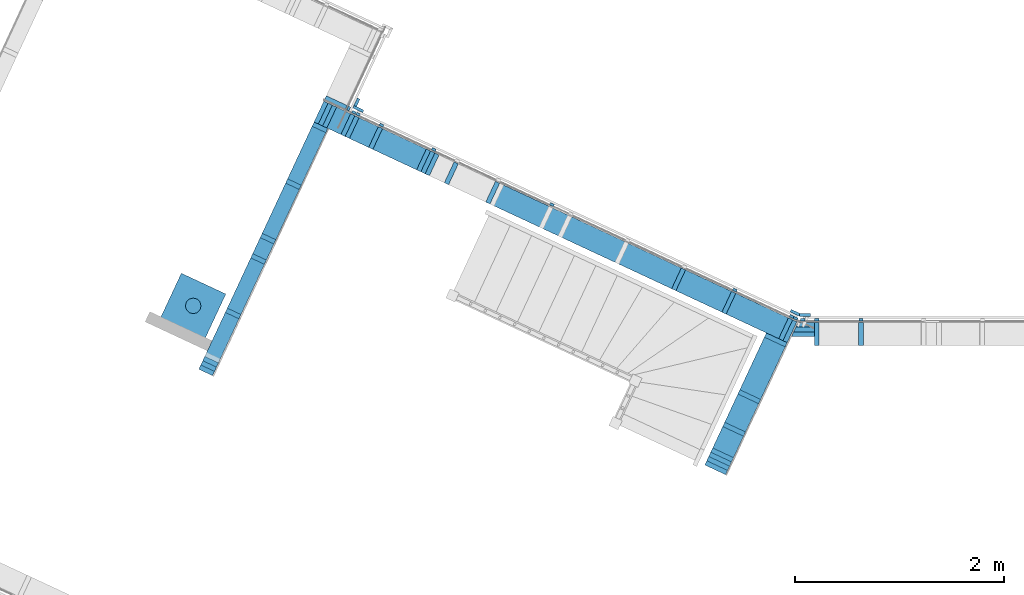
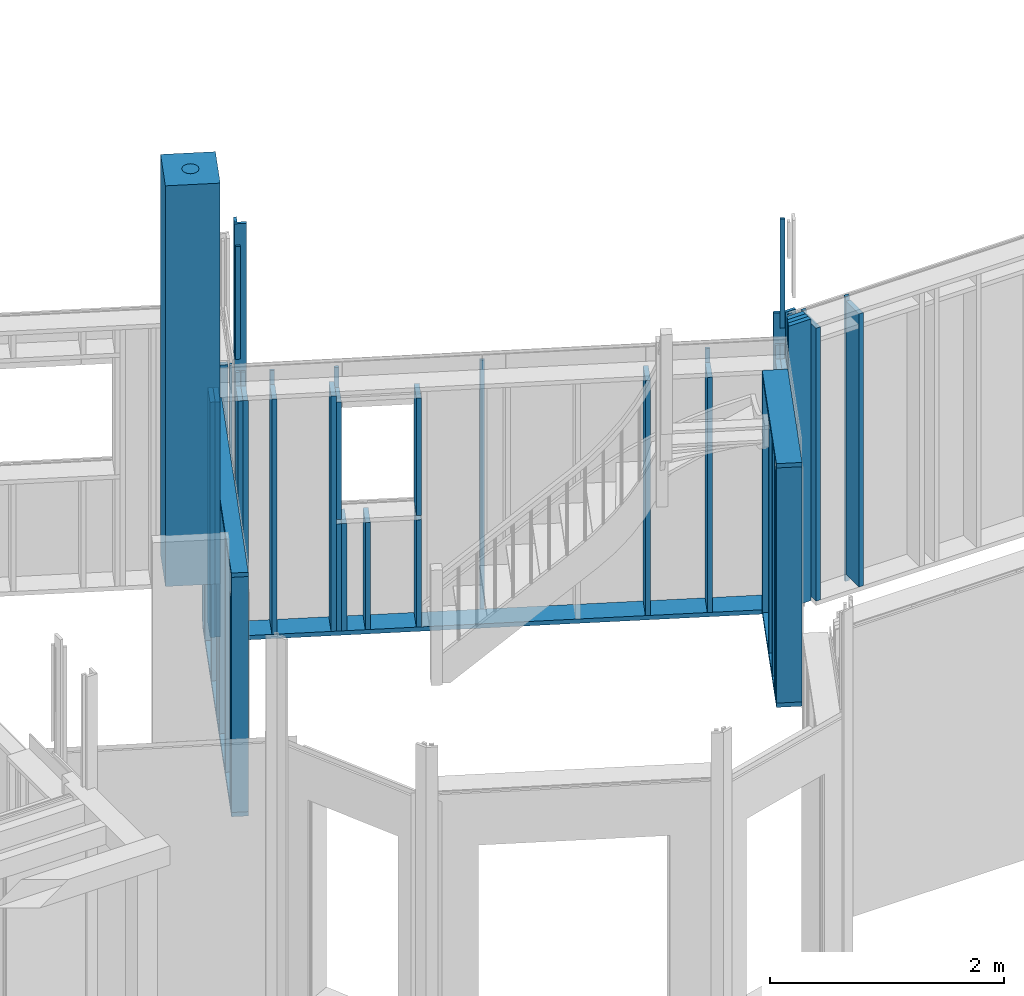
# One storey, part 11 of 34: 63 members.
"""IFC2X3 building model written with IfcOpenShell, lengths in metres."""

from ifc_helpers import new_model, si_unit, direction, frame, origin_with_axes, place, context, subcontext, project, spatial, faceted_brep, material, element, save


model = new_model("IFC2X3")

# Units and contexts
model_context = context("Model", 3, precision=1e-06, world=origin_with_axes(), true_north=direction((0.0, 1.0, 0.0)))
body_context = subcontext(model_context, "Body", "Model", "MODEL_VIEW")
ifc_project = project(units=[si_unit("LENGTHUNIT", "METRE"), si_unit("AREAUNIT", "SQUARE_METRE"), si_unit("VOLUMEUNIT", "CUBIC_METRE"), si_unit("PLANEANGLEUNIT", "RADIAN")], contexts=[model_context])

# Site, building, storey
site_placement = place(None, origin_with_axes())
site = spatial("IfcSite", under=ifc_project, at=site_placement, CompositionType="ELEMENT")
building_placement = place(site_placement, origin_with_axes())
building = spatial("IfcBuilding", under=site, at=building_placement, Name="Building 1", CompositionType="ELEMENT")
storey_placement = place(building_placement, origin_with_axes())
storey = spatial("IfcBuildingStorey", under=building, at=storey_placement, Name="Rez de chaussée", CompositionType="ELEMENT", Elevation=0.0)

# Members
ifc_material_1 = material(Name="Epicéa C24")
member_1_placement = place(storey_placement, frame((15.3161147, 3.9052799, 2.98), z_axis=(-1.0, 0.0, 0.0), x_axis=(0.0, 0.0, -1.0)))
element("IfcMember", 1, at=member_1_placement, inside=storey, material=ifc_material_1, Name="Montant", context=body_context, shape_type="Brep", body=[
    faceted_brep([(2.935, -0.0225, 0.0680323), (0.0, -0.0225, 0.0680323), (0.0, -0.0225, -0.0890162), (2.935, -0.0225, -0.0890162), (0.0, 0.0225, -0.0890162), (2.935, 0.0225, -0.0890162), (0.0, 0.0225, 0.0890162), (2.935, 0.0225, 0.0890162)], [[[0, 1, 2, 3]], [[3, 2, 4, 5]], [[6, 7, 5, 4]], [[7, 0, 3, 5]], [[6, 1, 0, 7]], [[1, 6, 4, 2]]]),
])
member_2_placement = place(storey_placement, frame((9.5794139, 3.4492099, 0.0675), z_axis=(-0.9063078, 0.4226183, 0.0), x_axis=(0.4226183, 0.9063078, 0.0)))
element("IfcMember", 2, at=member_2_placement, inside=storey, material=ifc_material_1, Name="Lisse basse", context=body_context, shape_type="Brep", body=[
    faceted_brep([(0.0, 0.0225, -0.0725), (2.6106551, 0.0225, -0.0725), (2.6106551, -0.0225, -0.0725), (0.0, -0.0225, -0.0725), (2.6106551, 0.0225, 0.0725), (2.6106551, -0.0225, 0.0725), (0.0, -0.0225, 0.0725), (0.0, 0.0225, 0.0725)], [[[0, 1, 2, 3]], [[4, 5, 2, 1]], [[5, 6, 3, 2]], [[7, 4, 1, 0]], [[6, 5, 4, 7]], [[6, 7, 0, 3]]]),
])
member_3_placement = place(storey_placement, frame((10.9476754, 5.9752864, 2.745), z_axis=(-0.9063078, 0.4226183, 0.0), x_axis=(0.0, 0.0, -1.0)))
element("IfcMember", 3, at=member_3_placement, inside=storey, material=ifc_material_1, Name="latte 27/40", context=body_context, shape_type="Brep", body=[
    faceted_brep([(2.74, -0.02, -0.012), (2.74, 0.02, -0.012), (2.74, 0.02, 0.012), (2.74, -0.02, 0.012), (0.0, 0.02, 0.012), (0.0, -0.02, 0.012), (0.0, 0.02, -0.012), (0.0, -0.02, -0.012)], [[[0, 1, 2, 3]], [[3, 2, 4, 5]], [[2, 1, 6, 4]], [[1, 0, 7, 6]], [[6, 7, 5, 4]], [[0, 3, 5, 7]]]),
])
member_4_placement = place(storey_placement, frame((12.3264059, 5.1701773, 1.207), z_axis=(0.4226183, 0.9063078, 0.0), x_axis=(0.0, 0.0, -1.0)))
element("IfcMember", 4, at=member_4_placement, inside=storey, material=ifc_material_1, Name="Montant", context=body_context, shape_type="Brep", body=[
    faceted_brep([(1.117, -0.0225, -0.11), (1.117, 0.0225, -0.11), (1.117, 0.0225, 0.11), (1.117, -0.0225, 0.11), (0.0, 0.0225, -0.11), (0.0, 0.0225, 0.11), (0.0, -0.0225, -0.11), (0.0, -0.0225, 0.11)], [[[0, 1, 2, 3]], [[2, 1, 4, 5]], [[1, 0, 6, 4]], [[0, 3, 7, 6]], [[3, 2, 5, 7]], [[7, 5, 4, 6]]]),
])
for number, where, z_axis, x_axis, name in (
    (5, (10.7246809, 5.9170739, 2.54), (0.4226183, 0.9063078, 0.0), (0.0, 0.0, -1.0), "Montant"),
    (6, (11.2054772, 5.6928749, 2.54), (0.4226183, 0.9063078, 0.0), (0.0, 0.0, -1.0), "Montant"),
    (7, (14.1054863, 4.3405785, 2.54), (0.4226183, 0.9063078, 0.0), (0.0, 0.0, -1.0), "Montant"),
):
    element("IfcMember", number, at=place(storey_placement, frame(where, z_axis=z_axis, x_axis=x_axis)), inside=storey, material=ifc_material_1, Name=name, context=body_context, shape_type="Brep", body=[
        faceted_brep([(0.0, 0.0225, 0.11), (0.0, -0.0225, 0.11), (2.45, -0.0225, 0.11), (2.45, 0.0225, 0.11), (2.45, -0.0225, -0.11), (2.45, 0.0225, -0.11), (0.0, -0.0225, -0.11), (0.0, 0.0225, -0.11)], [[[0, 1, 2, 3]], [[4, 5, 3, 2]], [[4, 2, 1, 6]], [[5, 4, 6, 7]], [[3, 5, 7, 0]], [[1, 0, 7, 6]]]),
    ])
ifc_material_2 = material(Name="NH II")
member_5_placement = place(storey_placement, frame((11.0397451, 5.9704201, -0.08), z_axis=(0.9063078, -0.4226183, 0.0), x_axis=(0.0, 0.0, 1.0)))
element("IfcMember", 8, at=member_5_placement, inside=storey, material=ifc_material_2, Name="Couvre joint", context=body_context, shape_type="Brep", body=[
    faceted_brep([(4.2710549, 0.0135, -0.0525), (4.2710549, 0.0135, 0.0525), (4.2710549, -0.0135, 0.0525), (4.2710549, -0.0135, -0.0525), (0.0, 0.0135, 0.0525), (0.0, 0.0135, -0.0525), (0.0, -0.0135, -0.0525), (0.0, -0.0135, 0.0525)], [[[0, 1, 2, 3]], [[4, 5, 6, 7]], [[3, 6, 5, 0]], [[2, 7, 6, 3]], [[1, 4, 7, 2]], [[0, 5, 4, 1]]]),
])
member_6_placement = place(storey_placement, frame((15.3056228, 3.8602799, 2.98), z_axis=(-1.0, 0.0, 0.0), x_axis=(0.0, 0.0, -1.0)))
element("IfcMember", 9, at=member_6_placement, inside=storey, material=ifc_material_1, Name="Montant", context=body_context, shape_type="Brep", body=[
    faceted_brep([(2.935, -0.0225, 0.0785242), (0.0, -0.0225, 0.0785242), (0.0, -0.0225, -0.0995081), (2.935, -0.0225, -0.0995081), (0.0, 0.0225, -0.0995081), (2.935, 0.0225, -0.0995081), (0.0, 0.0225, 0.0995081), (2.935, 0.0225, 0.0995081)], [[[0, 1, 2, 3]], [[3, 2, 4, 5]], [[6, 7, 5, 4]], [[7, 0, 3, 5]], [[6, 1, 0, 7]], [[1, 6, 4, 2]]]),
])
for number, where, z_axis, x_axis, name in (
    (10, (12.8938847, 5.0545136, 2.675), (0.4226183, 0.9063078, 0.0), (0.0, 0.0, -1.0), "latte 27/40"),
    (11, (11.2625307, 5.8152265, 2.675), (0.4226183, 0.9063078, 0.0), (0.0, 0.0, -1.0), "latte 27/40"),
):
    element("IfcMember", number, at=place(storey_placement, frame(where, z_axis=z_axis, x_axis=x_axis)), inside=storey, material=ifc_material_1, Name=name, context=body_context, shape_type="Brep", body=[
        faceted_brep([(0.0, -0.02, 0.012), (0.0, -0.02, -0.012), (2.67, -0.02, -0.012), (2.67, -0.02, 0.012), (0.0, 0.02, -0.012), (2.67, 0.02, -0.012), (0.0, 0.02, 0.012), (2.67, 0.02, 0.012)], [[[0, 1, 2, 3]], [[1, 4, 5, 2]], [[4, 6, 7, 5]], [[6, 0, 3, 7]], [[0, 6, 4, 1]], [[7, 3, 2, 5]]]),
    ])
member_7_placement = place(storey_placement, frame((11.9303476, 5.3548623, 1.207), z_axis=(0.4226183, 0.9063078, 0.0), x_axis=(0.0, 0.0, -1.0)))
element("IfcMember", 12, at=member_7_placement, inside=storey, material=ifc_material_1, Name="Montant", context=body_context, shape_type="Brep", body=[
    faceted_brep([(1.117, -0.0225, -0.11), (1.117, 0.0225, -0.11), (1.117, 0.0225, 0.11), (1.117, -0.0225, 0.11), (0.0, 0.0225, -0.11), (0.0, 0.0225, 0.11), (0.0, -0.0225, -0.11), (0.0, -0.0225, 0.11)], [[[0, 1, 2, 3]], [[2, 1, 4, 5]], [[1, 0, 6, 4]], [[0, 3, 7, 6]], [[3, 2, 5, 7]], [[7, 5, 4, 6]]]),
])
member_8_placement = place(storey_placement, frame((14.4841493, 2.5781967, 2.48), z_axis=(0.9063078, -0.4226183, 0.0), x_axis=(0.0, 0.0, -1.0)))
element("IfcMember", 13, at=member_8_placement, inside=storey, material=ifc_material_1, Name="Montant", context=body_context, shape_type="Brep", body=[
    faceted_brep([(2.39, -0.0225, -0.11), (2.39, 0.0225, -0.11), (2.39, 0.0225, 0.11), (2.39, -0.0225, 0.11), (0.0, -0.0225, 0.11), (0.0, -0.0225, -0.11), (0.0, 0.0225, -0.11), (0.0, 0.0225, 0.11)], [[[0, 1, 2, 3]], [[0, 3, 4, 5]], [[1, 0, 5, 6]], [[2, 1, 6, 7]], [[3, 2, 7, 4]], [[4, 7, 6, 5]]]),
])
member_9_placement = place(storey_placement, frame((11.6648012, 5.4786886, 2.54), z_axis=(0.4226183, 0.9063078, 0.0), x_axis=(0.0, 0.0, -1.0)))
element("IfcMember", 14, at=member_9_placement, inside=storey, material=ifc_material_1, Name="Montant", context=body_context, shape_type="Brep", body=[
    faceted_brep([(0.0, 0.0225, 0.11), (0.0, -0.0225, 0.11), (2.45, -0.0225, 0.11), (2.45, 0.0225, 0.11), (2.45, -0.0225, -0.11), (2.45, 0.0225, -0.11), (0.0, -0.0225, -0.11), (0.0, 0.0225, -0.11)], [[[0, 1, 2, 3]], [[4, 5, 3, 2]], [[4, 2, 1, 6]], [[5, 4, 6, 7]], [[3, 5, 7, 0]], [[1, 0, 7, 6]]]),
])
member_10_placement = place(storey_placement, frame((15.4276309, 3.8177799, 2.935), z_axis=(0.0, 1.0, 0.0), x_axis=(0.0, 0.0, -1.0)))
element("IfcMember", 15, at=member_10_placement, inside=storey, material=ifc_material_1, Name="Montant", context=body_context, shape_type="Brep", body=[
    faceted_brep([(2.845, -0.0225, 0.11), (2.845, 0.0225, 0.11), (0.0, 0.0225, 0.11), (0.0, -0.0225, 0.11), (2.845, -0.0225, -0.11), (2.845, 0.0225, -0.11), (0.0, -0.0225, -0.11), (0.0, 0.0225, -0.11)], [[[0, 1, 2, 3]], [[4, 5, 1, 0]], [[4, 0, 3, 6]], [[5, 4, 6, 7]], [[1, 5, 7, 2]], [[3, 2, 7, 6]]]),
])
member_11_placement = place(storey_placement, frame((15.1708511, 3.8437907, 2.54), z_axis=(0.4226183, 0.9063078, 0.0), x_axis=(0.0, 0.0, -1.0)))
element("IfcMember", 16, at=member_11_placement, inside=storey, material=ifc_material_1, Name="Montant", context=body_context, shape_type="Brep", body=[
    faceted_brep([(0.0, 0.0225, 0.11), (0.0, -0.0225, 0.11), (2.45, -0.0225, 0.11), (2.45, 0.0225, 0.11), (2.45, -0.0225, -0.11), (2.45, 0.0225, -0.11), (0.0, -0.0225, -0.11), (0.0, 0.0225, -0.11)], [[[0, 1, 2, 3]], [[4, 5, 3, 2]], [[4, 2, 1, 6]], [[5, 4, 6, 7]], [[3, 5, 7, 0]], [[1, 0, 7, 6]]]),
])
member_12_placement = place(storey_placement, frame((10.6732155, 5.794875, 2.54), z_axis=(0.9063078, -0.4226183, 0.0), x_axis=(0.0, 0.0, -1.0)))
element("IfcMember", 17, at=member_12_placement, inside=storey, material=ifc_material_1, Name="Montant", context=body_context, shape_type="Brep", body=[
    faceted_brep([(2.45, -0.0225, -0.0725), (2.45, 0.0225, -0.0725), (2.45, 0.0225, 0.0725), (2.45, -0.0225, 0.0725), (0.0, -0.0225, 0.0725), (0.0, -0.0225, -0.0725), (0.0, 0.0225, -0.0725), (0.0, 0.0225, 0.0725)], [[[0, 1, 2, 3]], [[0, 3, 4, 5]], [[1, 0, 5, 6]], [[2, 1, 6, 7]], [[3, 2, 7, 4]], [[4, 7, 6, 5]]]),
])
member_13_placement = place(storey_placement, frame((14.7819813, 3.2168993, 2.54), z_axis=(0.9063078, -0.4226183, 0.0), x_axis=(0.0, 0.0, -1.0)))
element("IfcMember", 18, at=member_13_placement, inside=storey, material=ifc_material_1, Name="Montant", context=body_context, shape_type="Brep", body=[
    faceted_brep([(2.45, -0.0225, -0.11), (2.45, -0.0225, 0.11), (0.0, -0.0225, 0.11), (0.0, -0.0225, -0.11), (2.45, 0.0225, -0.11), (0.0, 0.0225, -0.11), (2.45, 0.0225, 0.11), (0.0, 0.0225, 0.11)], [[[0, 1, 2, 3]], [[4, 0, 3, 5]], [[6, 4, 5, 7]], [[0, 4, 6, 1]], [[7, 2, 1, 6]], [[2, 7, 5, 3]]]),
])
member_14_placement = place(storey_placement, frame((15.191243, 3.8342818, 0.0675), z_axis=(-0.4226183, -0.9063078, 0.0), x_axis=(-0.9063078, 0.4226183, 0.0)))
element("IfcMember", 19, at=member_14_placement, inside=storey, material=ifc_material_1, Name="Lisse basse", context=body_context, shape_type="Brep", body=[
    faceted_brep([(0.0, 0.0225, -0.11), (4.995806, 0.0225, -0.11), (4.995806, -0.0225, -0.11), (0.0, -0.0225, -0.11), (4.995806, -0.0225, 0.11), (0.0, -0.0225, 0.11), (4.995806, 0.0225, 0.11), (0.0, 0.0225, 0.11)], [[[0, 1, 2, 3]], [[4, 5, 3, 2]], [[6, 4, 2, 1]], [[7, 0, 3, 5]], [[6, 7, 5, 4]], [[1, 0, 7, 6]]]),
])
member_15_placement = place(storey_placement, frame((15.3159327, 3.9992799, -0.08), z_axis=(-1.0, 0.0, 0.0), x_axis=(0.0, 0.0, 1.0)))
element("IfcMember", 20, at=member_15_placement, inside=storey, material=ifc_material_2, Name="Couvre joint", context=body_context, shape_type="Brep", body=[
    faceted_brep([(3.06, 0.0135, -0.0525), (3.06, 0.0135, 0.0525), (3.06, -0.0135, 0.0525), (3.06, -0.0135, -0.0525), (0.0, 0.0135, 0.0525), (0.0, 0.0135, -0.0525), (0.0, -0.0135, -0.0525), (0.0, -0.0135, 0.0525)], [[[0, 1, 2, 3]], [[4, 5, 6, 7]], [[3, 6, 5, 0]], [[2, 7, 6, 3]], [[1, 4, 7, 2]], [[0, 5, 4, 1]]]),
])
member_16_placement = place(storey_placement, frame((10.9974356, 5.9388423, 2.675), z_axis=(0.4226183, 0.9063078, 0.0), x_axis=(0.0, 0.0, -1.0)))
element("IfcMember", 21, at=member_16_placement, inside=storey, material=ifc_material_1, Name="latte chantier", context=body_context, shape_type="Brep", body=[
    faceted_brep([(0.0, -0.02, 0.012), (0.0, -0.02, -0.012), (2.67, -0.02, -0.012), (2.67, -0.02, 0.012), (0.0, 0.02, -0.012), (2.67, 0.02, -0.012), (0.0, 0.02, 0.012), (2.67, 0.02, 0.012)], [[[0, 1, 2, 3]], [[1, 4, 5, 2]], [[4, 6, 7, 5]], [[6, 0, 3, 7]], [[0, 6, 4, 1]], [[7, 3, 2, 5]]]),
])
member_17_placement = place(storey_placement, frame((15.2258049, 4.0184284, -0.08), z_axis=(0.9063078, -0.4226183, 0.0), x_axis=(0.0, 0.0, 1.0)))
element("IfcMember", 22, at=member_17_placement, inside=storey, material=ifc_material_2, Name="Couvre joint", context=body_context, shape_type="Brep", body=[
    faceted_brep([(3.06, 0.0135, -0.0525), (3.06, 0.0135, 0.0525), (3.06, -0.0135, 0.0525), (3.06, -0.0135, -0.0525), (0.0, 0.0135, 0.0525), (0.0, 0.0135, -0.0525), (0.0, -0.0135, -0.0525), (0.0, -0.0135, 0.0525)], [[[0, 1, 2, 3]], [[4, 5, 6, 7]], [[3, 6, 5, 0]], [[2, 7, 6, 3]], [[1, 4, 7, 2]], [[0, 5, 4, 1]]]),
])
member_18_placement = place(storey_placement, frame((11.0208812, 6.0222483, -0.08), z_axis=(-0.4226183, -0.9063078, 0.0), x_axis=(0.0, 0.0, 1.0)))
element("IfcMember", 23, at=member_18_placement, inside=storey, material=ifc_material_2, Name="Couvre joint", context=body_context, shape_type="Brep", body=[
    faceted_brep([(4.2710549, 0.0135, -0.0525), (4.2710549, 0.0135, 0.0525), (4.2710549, -0.0135, 0.0525), (4.2710549, -0.0135, -0.0525), (0.0, 0.0135, 0.0525), (0.0, 0.0135, -0.0525), (0.0, -0.0135, -0.0525), (0.0, -0.0135, 0.0525)], [[[0, 1, 2, 3]], [[4, 5, 6, 7]], [[3, 6, 5, 0]], [[2, 7, 6, 3]], [[1, 4, 7, 2]], [[0, 5, 4, 1]]]),
])
member_19_placement = place(storey_placement, frame((15.8516781, 3.9527799, 2.975), z_axis=(0.0, 1.0, 0.0), x_axis=(0.0, 0.0, -1.0)))
element("IfcMember", 24, at=member_19_placement, inside=storey, material=ifc_material_1, Name="latte 27/40", context=body_context, shape_type="Brep", body=[
    faceted_brep([(2.97, -0.02, 0.012), (2.97, 0.02, 0.012), (0.0, 0.02, 0.012), (0.0, -0.02, 0.012), (0.0, 0.02, -0.012), (0.0, -0.02, -0.012), (2.97, 0.02, -0.012), (2.97, -0.02, -0.012)], [[[0, 1, 2, 3]], [[3, 2, 4, 5]], [[2, 1, 6, 4]], [[1, 0, 7, 6]], [[6, 7, 5, 4]], [[0, 3, 5, 7]]]),
])
member_20_placement = place(storey_placement, frame((12.3264059, 5.1701773, 2.475), z_axis=(0.4226183, 0.9063078, 0.0), x_axis=(0.0, 0.0, -1.0)))
element("IfcMember", 25, at=member_20_placement, inside=storey, material=ifc_material_1, Name="Montant", context=body_context, shape_type="Brep", body=[
    faceted_brep([(1.223, -0.0225, -0.11), (1.223, 0.0225, -0.11), (1.223, 0.0225, 0.11), (1.223, -0.0225, 0.11), (0.0, 0.0225, -0.11), (0.0, 0.0225, 0.11), (0.0, -0.0225, -0.11), (0.0, -0.0225, 0.11)], [[[0, 1, 2, 3]], [[2, 1, 4, 5]], [[1, 0, 6, 4]], [[0, 3, 7, 6]], [[3, 2, 5, 7]], [[7, 5, 4, 6]]]),
])
member_21_placement = place(storey_placement, frame((14.5862825, 4.1163795, 2.54), z_axis=(0.4226183, 0.9063078, 0.0), x_axis=(0.0, 0.0, -1.0)))
element("IfcMember", 26, at=member_21_placement, inside=storey, material=ifc_material_1, Name="Montant", context=body_context, shape_type="Brep", body=[
    faceted_brep([(0.0, 0.0225, 0.11), (0.0, -0.0225, 0.11), (2.45, -0.0225, 0.11), (2.45, 0.0225, 0.11), (2.45, -0.0225, -0.11), (2.45, 0.0225, -0.11), (0.0, -0.0225, -0.11), (0.0, 0.0225, -0.11)], [[[0, 1, 2, 3]], [[4, 5, 3, 2]], [[4, 2, 1, 6]], [[5, 4, 6, 7]], [[3, 5, 7, 0]], [[1, 0, 7, 6]]]),
])
member_22_placement = place(storey_placement, frame((14.643336, 4.238731, 2.675), z_axis=(0.4226183, 0.9063078, 0.0), x_axis=(0.0, 0.0, -1.0)))
element("IfcMember", 27, at=member_22_placement, inside=storey, material=ifc_material_1, Name="latte 27/40", context=body_context, shape_type="Brep", body=[
    faceted_brep([(0.0, -0.02, 0.012), (0.0, -0.02, -0.012), (2.67, -0.02, -0.012), (2.67, -0.02, 0.012), (0.0, 0.02, -0.012), (2.67, 0.02, -0.012), (0.0, 0.02, 0.012), (2.67, 0.02, 0.012)], [[[0, 1, 2, 3]], [[1, 4, 5, 2]], [[4, 6, 7, 5]], [[6, 0, 3, 7]], [[0, 6, 4, 1]], [[7, 3, 2, 5]]]),
])
member_23_placement = place(storey_placement, frame((15.1300672, 3.8628085, 2.54), z_axis=(0.4226183, 0.9063078, 0.0), x_axis=(0.0, 0.0, -1.0)))
element("IfcMember", 28, at=member_23_placement, inside=storey, material=ifc_material_1, Name="Montant", context=body_context, shape_type="Brep", body=[
    faceted_brep([(0.0, 0.0225, 0.11), (0.0, -0.0225, 0.11), (2.45, -0.0225, 0.11), (2.45, 0.0225, 0.11), (2.45, -0.0225, -0.11), (2.45, 0.0225, -0.11), (0.0, -0.0225, -0.11), (0.0, 0.0225, -0.11)], [[[0, 1, 2, 3]], [[4, 5, 3, 2]], [[4, 2, 1, 6]], [[5, 4, 6, 7]], [[3, 5, 7, 0]], [[1, 0, 7, 6]]]),
])
member_24_placement = place(storey_placement, frame((15.1871207, 3.9851601, 2.675), z_axis=(0.4226183, 0.9063078, 0.0), x_axis=(0.0, 0.0, -1.0)))
element("IfcMember", 29, at=member_24_placement, inside=storey, material=ifc_material_1, Name="latte 27/40", context=body_context, shape_type="Brep", body=[
    faceted_brep([(0.0, -0.02, 0.012), (0.0, -0.02, -0.012), (2.67, -0.02, -0.012), (2.67, -0.02, 0.012), (0.0, 0.02, -0.012), (2.67, 0.02, -0.012), (0.0, 0.02, 0.012), (2.67, 0.02, 0.012)], [[[0, 1, 2, 3]], [[1, 4, 5, 2]], [[4, 6, 7, 5]], [[6, 0, 3, 7]], [[0, 6, 4, 1]], [[7, 3, 2, 5]]]),
])
member_25_placement = place(storey_placement, frame((15.0355522, 3.760684, 2.54), z_axis=(0.9063078, -0.4226183, 0.0), x_axis=(0.0, 0.0, -1.0)))
element("IfcMember", 30, at=member_25_placement, inside=storey, material=ifc_material_1, Name="Montant", context=body_context, shape_type="Brep", body=[
    faceted_brep([(2.45, -0.0225, -0.11), (2.45, -0.0225, 0.11), (0.0, -0.0225, 0.11), (0.0, -0.0225, -0.11), (2.45, 0.0225, -0.11), (0.0, 0.0225, -0.11), (2.45, 0.0225, 0.11), (0.0, 0.0225, 0.11)], [[[0, 1, 2, 3]], [[4, 0, 3, 5]], [[6, 4, 5, 7]], [[0, 4, 6, 1]], [[7, 2, 1, 6]], [[2, 7, 5, 3]]]),
])
member_26_placement = place(storey_placement, frame((11.7055851, 5.4596708, 1.207), z_axis=(0.4226183, 0.9063078, 0.0), x_axis=(0.0, 0.0, -1.0)))
element("IfcMember", 31, at=member_26_placement, inside=storey, material=ifc_material_1, Name="Montant", context=body_context, shape_type="Brep", body=[
    faceted_brep([(1.117, -0.0225, -0.11), (1.117, 0.0225, -0.11), (1.117, 0.0225, 0.11), (1.117, -0.0225, 0.11), (0.0, 0.0225, -0.11), (0.0, 0.0225, 0.11), (0.0, -0.0225, -0.11), (0.0, -0.0225, 0.11)], [[[0, 1, 2, 3]], [[2, 1, 4, 5]], [[1, 0, 6, 4]], [[0, 3, 7, 6]], [[3, 2, 5, 7]], [[7, 5, 4, 6]]]),
])
member_27_placement = place(storey_placement, frame((14.5221849, 2.6597644, 2.54), z_axis=(0.9063078, -0.4226183, 0.0), x_axis=(0.0, 0.0, -1.0)))
element("IfcMember", 32, at=member_27_placement, inside=storey, material=ifc_material_1, Name="Montant", context=body_context, shape_type="Brep", body=[
    faceted_brep([(2.45, -0.0225, -0.11), (2.45, -0.0225, 0.11), (0.0, -0.0225, 0.11), (0.0, -0.0225, -0.11), (2.45, 0.0225, -0.11), (0.0, 0.0225, -0.11), (2.45, 0.0225, 0.11), (0.0, 0.0225, 0.11)], [[[0, 1, 2, 3]], [[4, 0, 3, 5]], [[6, 4, 5, 7]], [[0, 4, 6, 1]], [[7, 2, 1, 6]], [[2, 7, 5, 3]]]),
])
member_28_placement = place(storey_placement, frame((9.4600087, 4.0863857, 6.4485989), z_axis=(-0.9063078, 0.4226183, 0.0), x_axis=(0.0, 0.0, -1.0)))
element("IfcMember", 33, at=member_28_placement, inside=storey, material=ifc_material_2, Name="Cheminée", context=body_context, shape_type="Brep", body=[
    faceted_brep([(4.1755989, 0.235, -0.235), (4.1755989, 0.235, 0.235), (4.1755989, -0.235, 0.235), (4.1755989, -0.235, -0.235), (0.0, 0.235, 0.235), (0.0, 0.235, -0.235), (0.0, -0.235, -0.235), (0.0, -0.235, 0.235)], [[[0, 1, 2, 3]], [[4, 5, 6, 7]], [[3, 6, 5, 0]], [[2, 7, 6, 3]], [[1, 4, 7, 2]], [[0, 5, 4, 1]]]),
])
member_29_placement = place(storey_placement, frame((9.5794139, 3.4492099, 2.5625), z_axis=(-0.9063078, 0.4226183, 0.0), x_axis=(0.4226183, 0.9063078, 0.0)))
element("IfcMember", 34, at=member_29_placement, inside=storey, material=ifc_material_1, Name="Montant", context=body_context, shape_type="Brep", body=[
    faceted_brep([(0.0, 0.0225, -0.0725), (2.6106551, 0.0225, -0.0725), (2.6106551, -0.0225, -0.0725), (0.0, -0.0225, -0.0725), (2.6106551, 0.0225, 0.0725), (2.6106551, -0.0225, 0.0725), (0.0, -0.0225, 0.0725), (0.0, 0.0225, 0.0725)], [[[0, 1, 2, 3]], [[4, 5, 2, 1]], [[5, 6, 3, 2]], [[7, 4, 1, 0]], [[6, 5, 4, 7]], [[6, 7, 0, 3]]]),
])
member_30_placement = place(storey_placement, frame((14.5031671, 2.6189805, 2.48), z_axis=(0.9063078, -0.4226183, 0.0), x_axis=(0.0, 0.0, -1.0)))
element("IfcMember", 35, at=member_30_placement, inside=storey, material=ifc_material_1, Name="Montant", context=body_context, shape_type="Brep", body=[
    faceted_brep([(2.39, -0.0225, -0.11), (2.39, 0.0225, -0.11), (2.39, 0.0225, 0.11), (2.39, -0.0225, 0.11), (0.0, -0.0225, 0.11), (0.0, -0.0225, -0.11), (0.0, 0.0225, -0.11), (0.0, 0.0225, 0.11)], [[[0, 1, 2, 3]], [[0, 3, 4, 5]], [[1, 0, 5, 6]], [[2, 1, 6, 7]], [[3, 2, 7, 4]], [[4, 7, 6, 5]]]),
])
for number, where, z_axis, x_axis, name in (
    (36, (9.5889228, 3.4696018, 2.54), (0.9063078, -0.4226183, 0.0), (0.0, 0.0, -1.0), "Montant"),
    (37, (9.8424938, 4.0133865, 2.54), (0.9063078, -0.4226183, 0.0), (0.0, 0.0, -1.0), "Montant"),
):
    element("IfcMember", number, at=place(storey_placement, frame(where, z_axis=z_axis, x_axis=x_axis)), inside=storey, material=ifc_material_1, Name=name, context=body_context, shape_type="Brep", body=[
        faceted_brep([(2.45, -0.0225, -0.0725), (2.45, 0.0225, -0.0725), (2.45, 0.0225, 0.0725), (2.45, -0.0225, 0.0725), (0.0, -0.0225, 0.0725), (0.0, -0.0225, -0.0725), (0.0, 0.0225, -0.0725), (0.0, 0.0225, 0.0725)], [[[0, 1, 2, 3]], [[0, 3, 4, 5]], [[1, 0, 5, 6]], [[2, 1, 6, 7]], [[3, 2, 7, 4]], [[4, 7, 6, 5]]]),
    ])
member_31_placement = place(storey_placement, frame((11.7055851, 5.4596708, 2.475), z_axis=(0.4226183, 0.9063078, 0.0), x_axis=(0.0, 0.0, -1.0)))
element("IfcMember", 38, at=member_31_placement, inside=storey, material=ifc_material_1, Name="Montant", context=body_context, shape_type="Brep", body=[
    faceted_brep([(1.223, -0.0225, -0.11), (1.223, 0.0225, -0.11), (1.223, 0.0225, 0.11), (1.223, -0.0225, 0.11), (0.0, 0.0225, -0.11), (0.0, 0.0225, 0.11), (0.0, -0.0225, -0.11), (0.0, -0.0225, 0.11)], [[[0, 1, 2, 3]], [[2, 1, 4, 5]], [[1, 0, 6, 4]], [[0, 3, 7, 6]], [[3, 2, 5, 7]], [[7, 5, 4, 6]]]),
])
member_32_placement = place(storey_placement, frame((9.6079407, 3.5103857, 2.3), z_axis=(0.9063078, -0.4226183, 0.0), x_axis=(0.0, 0.0, -1.0)))
element("IfcMember", 39, at=member_32_placement, inside=storey, material=ifc_material_1, Name="Montant", context=body_context, shape_type="Brep", body=[
    faceted_brep([(2.21, -0.0225, -0.0725), (2.21, 0.0225, -0.0725), (2.21, 0.0225, 0.0725), (2.21, -0.0225, 0.0725), (0.0, -0.0225, 0.0725), (0.0, -0.0225, -0.0725), (0.0, 0.0225, -0.0725), (0.0, 0.0225, 0.0725)], [[[0, 1, 2, 3]], [[0, 3, 4, 5]], [[1, 0, 5, 6]], [[2, 1, 6, 7]], [[3, 2, 7, 4]], [[4, 7, 6, 5]]]),
])
for number, where, z_axis, x_axis, name in (
    (40, (10.7654648, 5.8980561, 2.54), (0.4226183, 0.9063078, 0.0), (0.0, 0.0, -1.0), "Montant"),
    (41, (10.981166, 5.7974729, 2.54), (0.4226183, 0.9063078, 0.0), (0.0, 0.0, -1.0), "Montant"),
):
    element("IfcMember", number, at=place(storey_placement, frame(where, z_axis=z_axis, x_axis=x_axis)), inside=storey, material=ifc_material_1, Name=name, context=body_context, shape_type="Brep", body=[
        faceted_brep([(0.0, 0.0225, 0.11), (0.0, -0.0225, 0.11), (2.45, -0.0225, 0.11), (2.45, 0.0225, 0.11), (2.45, -0.0225, -0.11), (2.45, 0.0225, -0.11), (0.0, -0.0225, -0.11), (0.0, 0.0225, -0.11)], [[[0, 1, 2, 3]], [[4, 5, 3, 2]], [[4, 2, 1, 6]], [[5, 4, 6, 7]], [[3, 5, 7, 0]], [[1, 0, 7, 6]]]),
    ])
member_33_placement = place(storey_placement, frame((11.0382195, 5.9198245, 2.675), z_axis=(0.4226183, 0.9063078, 0.0), x_axis=(0.0, 0.0, -1.0)))
element("IfcMember", 42, at=member_33_placement, inside=storey, material=ifc_material_1, Name="latte 27/40", context=body_context, shape_type="Brep", body=[
    faceted_brep([(0.0, -0.02, 0.012), (0.0, -0.02, -0.012), (2.67, -0.02, -0.012), (2.67, -0.02, 0.012), (0.0, 0.02, -0.012), (2.67, 0.02, -0.012), (0.0, 0.02, 0.012), (2.67, 0.02, 0.012)], [[[0, 1, 2, 3]], [[1, 4, 5, 2]], [[4, 6, 7, 5]], [[6, 0, 3, 7]], [[0, 6, 4, 1]], [[7, 3, 2, 5]]]),
])
member_34_placement = place(storey_placement, frame((10.9403822, 5.8164907, 2.54), z_axis=(0.4226183, 0.9063078, 0.0), x_axis=(0.0, 0.0, -1.0)))
element("IfcMember", 43, at=member_34_placement, inside=storey, material=ifc_material_1, Name="Montant", context=body_context, shape_type="Brep", body=[
    faceted_brep([(0.0, 0.0225, 0.11), (0.0, -0.0225, 0.11), (2.45, -0.0225, 0.11), (2.45, 0.0225, 0.11), (2.45, -0.0225, -0.11), (2.45, 0.0225, -0.11), (0.0, -0.0225, -0.11), (0.0, 0.0225, -0.11)], [[[0, 1, 2, 3]], [[4, 5, 3, 2]], [[4, 2, 1, 6]], [[5, 4, 6, 7]], [[3, 5, 7, 0]], [[1, 0, 7, 6]]]),
])
member_35_placement = place(storey_placement, frame((9.4600087, 4.0863857, 6.4485989), z_axis=(0.0, -1.0, 0.0), x_axis=(0.0, 0.0, -1.0)))
element("IfcMember", 44, at=member_35_placement, inside=storey, material=ifc_material_2, Name="Cheminée", context=body_context, shape_type="Brep", body=[
    faceted_brep([(4.0555989, 0.0, -0.075), (4.0555989, 0.0375, -0.0649519), (4.0555989, 0.0649519, -0.0375), (4.0555989, 0.075, 0.0), (4.0555989, 0.0649519, 0.0375), (4.0555989, 0.0375, 0.0649519), (4.0555989, 0.0, 0.075), (4.0555989, -0.0375, 0.0649519), (4.0555989, -0.0649519, 0.0375), (4.0555989, -0.075, 0.0), (4.0555989, -0.0649519, -0.0375), (4.0555989, -0.0375, -0.0649519), (0.0, 0.0375, -0.0649519), (0.0, 0.0, -0.075), (0.0, -0.0375, -0.0649519), (0.0, -0.0649519, -0.0375), (0.0, -0.075, 0.0), (0.0, -0.0649519, 0.0375), (0.0, -0.0375, 0.0649519), (0.0, 0.0, 0.075), (0.0, 0.0375, 0.0649519), (0.0, 0.0649519, 0.0375), (0.0, 0.075, 0.0), (0.0, 0.0649519, -0.0375)], [[[0, 1, 2, 3, 4, 5, 6, 7, 8, 9, 10, 11]], [[12, 13, 14, 15, 16, 17, 18, 19, 20, 21, 22, 23]], [[11, 14, 13, 0]], [[10, 15, 14, 11]], [[9, 16, 15, 10]], [[8, 17, 16, 9]], [[7, 18, 17, 8]], [[6, 19, 18, 7]], [[5, 20, 19, 6]], [[4, 21, 20, 5]], [[3, 22, 21, 4]], [[2, 23, 22, 3]], [[1, 12, 23, 2]], [[0, 13, 12, 1]]]),
])
member_36_placement = place(storey_placement, frame((10.9974356, 5.9388423, 3.9860549), z_axis=(0.4226183, 0.9063078, 0.0), x_axis=(0.0, 0.0, -1.0)))
element("IfcMember", 45, at=member_36_placement, inside=storey, material=ifc_material_1, Name="latte chantier", context=body_context, shape_type="Brep", body=[
    faceted_brep([(1.1760549, -0.02, 0.012), (0.0, -0.02, 0.012), (0.0, -0.02, -0.012), (1.1760549, -0.02, -0.012), (1.1760549, 0.02, -0.012), (0.0, 0.02, -0.012), (0.0, 0.02, 0.012), (1.1760549, 0.02, 0.012)], [[[0, 1, 2, 3]], [[4, 3, 2, 5]], [[6, 7, 4, 5]], [[0, 7, 6, 1]], [[7, 0, 3, 4]], [[1, 6, 5, 2]]]),
])
member_37_placement = place(storey_placement, frame((11.7626385, 5.5820223, 2.675), z_axis=(0.4226183, 0.9063078, 0.0), x_axis=(0.0, 0.0, -1.0)))
element("IfcMember", 46, at=member_37_placement, inside=storey, material=ifc_material_1, Name="latte 27/40", context=body_context, shape_type="Brep", body=[
    faceted_brep([(0.0, -0.02, 0.012), (0.0, -0.02, -0.012), (2.67, -0.02, -0.012), (2.67, -0.02, 0.012), (0.0, 0.02, -0.012), (2.67, 0.02, -0.012), (0.0, 0.02, 0.012), (2.67, 0.02, 0.012)], [[[0, 1, 2, 3]], [[1, 4, 5, 2]], [[4, 6, 7, 5]], [[6, 0, 3, 7]], [[0, 6, 4, 1]], [[7, 3, 2, 5]]]),
])
member_38_placement = place(storey_placement, frame((10.8242673, 6.0300741, 2.76), z_axis=(-0.9063078, 0.4226183, 0.0), x_axis=(0.0, 0.0, -1.0)))
element("IfcMember", 47, at=member_38_placement, inside=storey, material=ifc_material_1, Name="Montant", context=body_context, shape_type="Brep", body=[
    faceted_brep([(2.67, -0.0225, -0.11), (2.67, 0.0225, -0.11), (2.67, 0.0225, 0.11), (2.67, -0.0225, 0.11), (0.0, -0.0225, 0.11), (0.0, -0.0225, -0.11), (0.0, 0.0225, -0.11), (0.0, 0.0225, 0.11)], [[[0, 1, 2, 3]], [[0, 3, 4, 5]], [[1, 0, 5, 6]], [[2, 1, 6, 7]], [[3, 2, 7, 4]], [[4, 7, 6, 5]]]),
])
for number, where, z_axis, x_axis, name in (
    (48, (10.0857106, 4.5349666, 2.54), (0.9063078, -0.4226183, 0.0), (0.0, 0.0, -1.0), "Montant"),
    (49, (10.1764278, 4.7295102, 2.54), (0.9063078, -0.4226183, 0.0), (0.0, 0.0, -1.0), "Montant"),
    (50, (10.4196446, 5.2510903, 2.54), (0.9063078, -0.4226183, 0.0), (0.0, 0.0, -1.0), "Montant"),
):
    element("IfcMember", number, at=place(storey_placement, frame(where, z_axis=z_axis, x_axis=x_axis)), inside=storey, material=ifc_material_1, Name=name, context=body_context, shape_type="Brep", body=[
        faceted_brep([(2.45, -0.0225, -0.0725), (2.45, 0.0225, -0.0725), (2.45, 0.0225, 0.0725), (2.45, -0.0225, 0.0725), (0.0, -0.0225, 0.0725), (0.0, -0.0225, -0.0725), (0.0, 0.0225, -0.0725), (0.0, 0.0225, 0.0725)], [[[0, 1, 2, 3]], [[0, 3, 4, 5]], [[1, 0, 5, 6]], [[2, 1, 6, 7]], [[3, 2, 7, 4]], [[4, 7, 6, 5]]]),
    ])
member_39_placement = place(storey_placement, frame((10.6838971, 5.9360917, 2.54), z_axis=(0.4226183, 0.9063078, 0.0), x_axis=(0.0, 0.0, -1.0)))
element("IfcMember", 51, at=member_39_placement, inside=storey, material=ifc_material_1, Name="Montant", context=body_context, shape_type="Brep", body=[
    faceted_brep([(0.0, 0.0225, 0.11), (0.0, -0.0225, 0.11), (2.45, -0.0225, 0.11), (2.45, 0.0225, 0.11), (2.45, -0.0225, -0.11), (2.45, 0.0225, -0.11), (0.0, -0.0225, -0.11), (0.0, 0.0225, -0.11)], [[[0, 1, 2, 3]], [[4, 5, 3, 2]], [[4, 2, 1, 6]], [[5, 4, 6, 7]], [[3, 5, 7, 0]], [[1, 0, 7, 6]]]),
])
member_40_placement = place(storey_placement, frame((9.6269585, 3.5511695, 2.3), z_axis=(0.9063078, -0.4226183, 0.0), x_axis=(0.0, 0.0, -1.0)))
element("IfcMember", 52, at=member_40_placement, inside=storey, material=ifc_material_1, Name="Montant", context=body_context, shape_type="Brep", body=[
    faceted_brep([(2.21, -0.0225, -0.0725), (2.21, 0.0225, -0.0725), (2.21, 0.0225, 0.0725), (2.21, -0.0225, 0.0725), (0.0, -0.0225, 0.0725), (0.0, -0.0225, -0.0725), (0.0, 0.0225, -0.0725), (0.0, 0.0225, 0.0725)], [[[0, 1, 2, 3]], [[0, 3, 4, 5]], [[1, 0, 5, 6]], [[2, 1, 6, 7]], [[3, 2, 7, 4]], [[4, 7, 6, 5]]]),
])
member_41_placement = place(storey_placement, frame((15.2936781, 3.9527799, 2.975), z_axis=(0.0, 1.0, 0.0), x_axis=(0.0, 0.0, -1.0)))
element("IfcMember", 53, at=member_41_placement, inside=storey, material=ifc_material_1, Name="latte chantier", context=body_context, shape_type="Brep", body=[
    faceted_brep([(2.97, -0.02, 0.012), (2.97, 0.02, 0.012), (0.0, 0.02, 0.012), (0.0, -0.02, 0.012), (0.0, 0.02, -0.012), (0.0, -0.02, -0.012), (2.97, 0.02, -0.012), (2.97, -0.02, -0.012)], [[[0, 1, 2, 3]], [[3, 2, 4, 5]], [[2, 1, 6, 4]], [[1, 0, 7, 6]], [[6, 7, 5, 4]], [[0, 3, 5, 7]]]),
])
member_42_placement = place(storey_placement, frame((15.8516781, 3.8177799, 2.935), z_axis=(0.0, 1.0, 0.0), x_axis=(0.0, 0.0, -1.0)))
element("IfcMember", 54, at=member_42_placement, inside=storey, material=ifc_material_1, Name="Montant", context=body_context, shape_type="Brep", body=[
    faceted_brep([(2.845, -0.0225, 0.11), (2.845, 0.0225, 0.11), (0.0, 0.0225, 0.11), (0.0, -0.0225, 0.11), (2.845, -0.0225, -0.11), (2.845, 0.0225, -0.11), (0.0, -0.0225, -0.11), (0.0, 0.0225, -0.11)], [[[0, 1, 2, 3]], [[4, 5, 1, 0]], [[4, 0, 3, 6]], [[5, 4, 6, 7]], [[1, 5, 7, 2]], [[3, 2, 7, 6]]]),
])
member_43_placement = place(storey_placement, frame((15.4276309, 3.9527799, 2.975), z_axis=(0.0, 1.0, 0.0), x_axis=(0.0, 0.0, -1.0)))
element("IfcMember", 55, at=member_43_placement, inside=storey, material=ifc_material_1, Name="latte 27/40", context=body_context, shape_type="Brep", body=[
    faceted_brep([(2.97, -0.02, 0.012), (2.97, 0.02, 0.012), (0.0, 0.02, 0.012), (0.0, -0.02, 0.012), (0.0, 0.02, -0.012), (0.0, -0.02, -0.012), (2.97, 0.02, -0.012), (2.97, -0.02, -0.012)], [[[0, 1, 2, 3]], [[3, 2, 4, 5]], [[2, 1, 6, 4]], [[1, 0, 7, 6]], [[6, 7, 5, 4]], [[0, 3, 5, 7]]]),
])
member_44_placement = place(storey_placement, frame((14.6368119, 2.9055826, 2.54), z_axis=(0.9063078, -0.4226183, 0.0), x_axis=(0.0, 0.0, -1.0)))
element("IfcMember", 56, at=member_44_placement, inside=storey, material=ifc_material_1, Name="Montant", context=body_context, shape_type="Brep", body=[
    faceted_brep([(2.45, -0.0225, -0.11), (2.45, -0.0225, 0.11), (0.0, -0.0225, 0.11), (0.0, -0.0225, -0.11), (2.45, 0.0225, -0.11), (0.0, 0.0225, -0.11), (2.45, 0.0225, 0.11), (0.0, 0.0225, 0.11)], [[[0, 1, 2, 3]], [[4, 0, 3, 5]], [[6, 4, 5, 7]], [[0, 4, 6, 1]], [[7, 2, 1, 6]], [[2, 7, 5, 3]]]),
])
for number, where, z_axis, x_axis, name in (
    (57, (14.4556226, 2.5170209, 0.0675), (-0.9063078, 0.4226183, 0.0), (0.4226183, 0.9063078, 0.0), "Lisse basse"),
    (58, (14.4556226, 2.5170209, 2.5625), (-0.9063078, 0.4226183, 0.0), (0.4226183, 0.9063078, 0.0), "Montant"),
):
    element("IfcMember", number, at=place(storey_placement, frame(where, z_axis=z_axis, x_axis=x_axis)), inside=storey, material=ifc_material_1, Name=name, context=body_context, shape_type="Brep", body=[
        faceted_brep([(1.3947304, -0.0225, -0.11), (0.0, -0.0225, -0.11), (0.0, 0.0225, -0.11), (1.3947304, 0.0225, -0.11), (1.3947304, 0.0225, 0.11), (1.3947304, -0.0225, 0.11), (0.0, -0.0225, 0.11), (0.0, 0.0225, 0.11)], [[[0, 1, 2, 3]], [[4, 5, 0, 3]], [[5, 6, 1, 0]], [[7, 4, 3, 2]], [[6, 5, 4, 7]], [[6, 7, 2, 1]]]),
    ])
member_45_placement = place(storey_placement, frame((14.4651315, 2.5374128, 2.54), z_axis=(0.9063078, -0.4226183, 0.0), x_axis=(0.0, 0.0, -1.0)))
element("IfcMember", 59, at=member_45_placement, inside=storey, material=ifc_material_1, Name="Montant", context=body_context, shape_type="Brep", body=[
    faceted_brep([(2.45, -0.0225, -0.11), (2.45, -0.0225, 0.11), (0.0, -0.0225, 0.11), (0.0, -0.0225, -0.11), (2.45, 0.0225, -0.11), (0.0, 0.0225, -0.11), (2.45, 0.0225, 0.11), (0.0, 0.0225, 0.11)], [[[0, 1, 2, 3]], [[4, 0, 3, 5]], [[6, 4, 5, 7]], [[0, 4, 6, 1]], [[7, 2, 1, 6]], [[2, 7, 5, 3]]]),
])
member_46_placement = place(storey_placement, frame((11.7463689, 5.440653, 1.207), z_axis=(0.4226183, 0.9063078, 0.0), x_axis=(0.0, 0.0, -1.0)))
element("IfcMember", 60, at=member_46_placement, inside=storey, material=ifc_material_1, Name="Montant", context=body_context, shape_type="Brep", body=[
    faceted_brep([(1.117, -0.0225, -0.11), (1.117, 0.0225, -0.11), (1.117, 0.0225, 0.11), (1.117, -0.0225, 0.11), (0.0, 0.0225, -0.11), (0.0, 0.0225, 0.11), (0.0, -0.0225, -0.11), (0.0, -0.0225, 0.11)], [[[0, 1, 2, 3]], [[2, 1, 4, 5]], [[1, 0, 6, 4]], [[0, 3, 7, 6]], [[3, 2, 5, 7]], [[7, 5, 4, 6]]]),
])
member_47_placement = place(storey_placement, frame((15.223373, 3.9682553, 2.675), z_axis=(0.4226183, 0.9063078, 0.0), x_axis=(0.0, 0.0, -1.0)))
element("IfcMember", 61, at=member_47_placement, inside=storey, material=ifc_material_1, Name="latte chantier", context=body_context, shape_type="Brep", body=[
    faceted_brep([(0.0, -0.02, 0.012), (0.0, -0.02, -0.012), (2.67, -0.02, -0.012), (2.67, -0.02, 0.012), (0.0, 0.02, -0.012), (2.67, 0.02, -0.012), (0.0, 0.02, 0.012), (2.67, 0.02, 0.012)], [[[0, 1, 2, 3]], [[1, 4, 5, 2]], [[4, 6, 7, 5]], [[6, 0, 3, 7]], [[0, 6, 4, 1]], [[7, 3, 2, 5]]]),
])
member_48_placement = place(storey_placement, frame((15.2256388, 3.9671988, 3.9860549), z_axis=(0.4226183, 0.9063078, 0.0), x_axis=(0.0, 0.0, -1.0)))
element("IfcMember", 62, at=member_48_placement, inside=storey, material=ifc_material_1, Name="latte chantier", context=body_context, shape_type="Brep", body=[
    faceted_brep([(1.1360549, -0.02, -0.012), (1.1360549, -0.02, 0.012), (0.0, -0.02, 0.012), (0.0, -0.02, -0.012), (1.1360549, 0.02, -0.012), (0.0, 0.02, -0.012), (1.1360549, 0.02, 0.012), (0.0, 0.02, 0.012)], [[[0, 1, 2, 3]], [[4, 0, 3, 5]], [[6, 4, 5, 7]], [[1, 6, 7, 2]], [[4, 6, 1, 0]], [[2, 7, 5, 3]]]),
])
member_49_placement = place(storey_placement, frame((15.2951309, 3.8152799, 2.98), z_axis=(-1.0, 0.0, 0.0), x_axis=(0.0, 0.0, -1.0)))
element("IfcMember", 63, at=member_49_placement, inside=storey, material=ifc_material_1, Name="Montant", context=body_context, shape_type="Brep", body=[
    faceted_brep([(2.935, -0.0225, 0.0890162), (0.0, -0.0225, 0.0890162), (0.0, -0.0225, -0.11), (2.935, -0.0225, -0.11), (0.0, 0.0225, -0.11), (2.935, 0.0225, -0.11), (0.0, 0.0225, 0.11), (2.935, 0.0225, 0.11)], [[[0, 1, 2, 3]], [[3, 2, 4, 5]], [[5, 4, 6, 7]], [[7, 0, 3, 5]], [[6, 1, 0, 7]], [[1, 6, 4, 2]]]),
])

save(model, "model.ifc")
